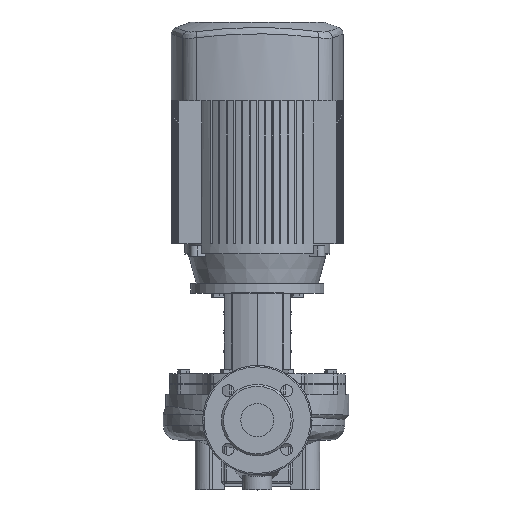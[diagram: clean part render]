
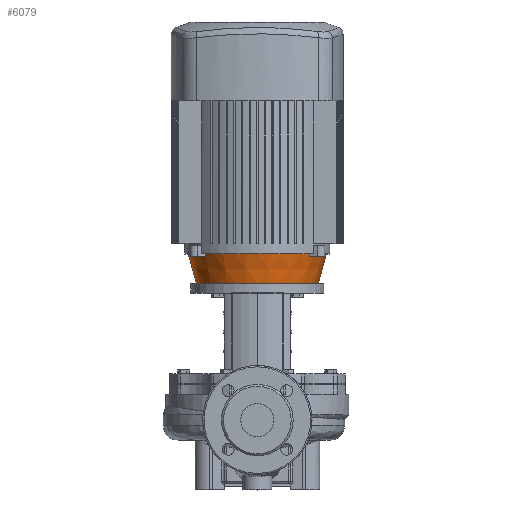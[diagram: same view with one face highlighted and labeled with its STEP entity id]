
A CAD part, top view. The second image highlights one B-rep face of the part: STEP entity #6079.
In plain terms, the highlighted conical face has half-angle 14.931 degrees and reference radius 92 mm.
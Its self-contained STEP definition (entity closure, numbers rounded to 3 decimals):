
#180 = ORIENTED_EDGE ( 'NONE', *, *, #18518, .F. ) ;
#412 = CARTESIAN_POINT ( 'NONE',  ( 78.687, 249.667, 67.458 ) ) ;
#416 = DIRECTION ( 'NONE',  ( 1., 0., 0. ) ) ;
#946 = EDGE_CURVE ( 'NONE', #32530, #39201, #31821, .T. ) ;
#1256 = ORIENTED_EDGE ( 'NONE', *, *, #43791, .T. ) ;
#1515 = DIRECTION ( 'NONE',  ( 0., 1., 0. ) ) ;
#1891 = DIRECTION ( 'NONE',  ( 0.258, -0.966, 0. ) ) ;
#1966 = CARTESIAN_POINT ( 'NONE',  ( -79.022, 251., 67.614 ) ) ;
#2456 = CARTESIAN_POINT ( 'NONE',  ( -90.302, 249.667, 50.87 ) ) ;
#2706 = EDGE_CURVE ( 'NONE', #11719, #45736, #46472, .T. ) ;
#2727 = VERTEX_POINT ( 'NONE', #31900 ) ;
#3132 = B_SPLINE_CURVE_WITH_KNOTS ( 'NONE', 3,
 ( #35768, #5589, #47178, #20433 ),
 .UNSPECIFIED., .F., .F.,
 ( 4, 4 ),
 ( 0., 1. ),
 .UNSPECIFIED. ) ;
#3211 = DIRECTION ( 'NONE',  ( -1., 0., 0. ) ) ;
#3304 = CARTESIAN_POINT ( 'NONE',  ( 92., 206., 0. ) ) ;
#3545 = DIRECTION ( 'NONE',  ( 0., -1., 0. ) ) ;
#3558 = ORIENTED_EDGE ( 'NONE', *, *, #44574, .F. ) ;
#5240 = VERTEX_POINT ( 'NONE', #45783 ) ;
#5589 = CARTESIAN_POINT ( 'NONE',  ( -78.687, 249.667, 67.458 ) ) ;
#6079 = ADVANCED_FACE ( 'NONE', ( #12926 ), #42943, .T. ) ;
#6101 = CARTESIAN_POINT ( 'NONE',  ( 0., 206., 0. ) ) ;
#6122 = B_SPLINE_CURVE_WITH_KNOTS ( 'NONE', 3,
 ( #31329, #23771, #26961, #31096 ),
 .UNSPECIFIED., .F., .F.,
 ( 4, 4 ),
 ( 0., 1. ),
 .UNSPECIFIED. ) ;
#6317 = DIRECTION ( 'NONE',  ( 1., 0., 0. ) ) ;
#6664 = B_SPLINE_CURVE_WITH_KNOTS ( 'NONE', 3,
 ( #33970, #412, #12064, #11830 ),
 .UNSPECIFIED., .F., .F.,
 ( 4, 4 ),
 ( 0., 1. ),
 .UNSPECIFIED. ) ;
#6908 = ORIENTED_EDGE ( 'NONE', *, *, #7120, .T. ) ;
#7029 = CARTESIAN_POINT ( 'NONE',  ( -90.563, 251., 51.131 ) ) ;
#7120 = EDGE_CURVE ( 'NONE', #45736, #32530, #19400, .T. ) ;
#7714 = AXIS2_PLACEMENT_3D ( 'NONE', #20222, #8569, #16334 ) ;
#7998 = CARTESIAN_POINT ( 'NONE',  ( -78.018, 247., 67.145 ) ) ;
#8569 = DIRECTION ( 'NONE',  ( 0., -1., 0. ) ) ;
#9274 = CARTESIAN_POINT ( 'NONE',  ( -89.78, 247., 50.348 ) ) ;
#9853 = VERTEX_POINT ( 'NONE', #23794 ) ;
#9903 = VERTEX_POINT ( 'NONE', #32787 ) ;
#10387 = AXIS2_PLACEMENT_3D ( 'NONE', #29422, #44276, #6317 ) ;
#10547 = CARTESIAN_POINT ( 'NONE',  ( -104., 251., 0. ) ) ;
#11095 = VERTEX_POINT ( 'NONE', #46017 ) ;
#11656 = ORIENTED_EDGE ( 'NONE', *, *, #37114, .T. ) ;
#11719 = VERTEX_POINT ( 'NONE', #20914 ) ;
#11742 = VECTOR ( 'NONE', #46417, 1000. ) ;
#11767 = EDGE_CURVE ( 'NONE', #9903, #9853, #31364, .T. ) ;
#11830 = CARTESIAN_POINT ( 'NONE',  ( 78.018, 247., 67.145 ) ) ;
#12040 = CARTESIAN_POINT ( 'NONE',  ( 0., 251., 0. ) ) ;
#12064 = CARTESIAN_POINT ( 'NONE',  ( 78.352, 248.333, 67.302 ) ) ;
#12468 = CIRCLE ( 'NONE', #25710, 104. ) ;
#12556 = CIRCLE ( 'NONE', #38201, 92. ) ;
#12926 = FACE_OUTER_BOUND ( 'NONE', #24882, .T. ) ;
#13173 = CARTESIAN_POINT ( 'NONE',  ( -90.041, 248.333, 50.609 ) ) ;
#14457 = EDGE_CURVE ( 'NONE', #11095, #5240, #28667, .T. ) ;
#14502 = VERTEX_POINT ( 'NONE', #1966 ) ;
#16334 = DIRECTION ( 'NONE',  ( -1., 0., 0. ) ) ;
#17453 = CARTESIAN_POINT ( 'NONE',  ( -92., 206., 0. ) ) ;
#18213 = VERTEX_POINT ( 'NONE', #7998 ) ;
#18518 = EDGE_CURVE ( 'NONE', #2727, #9853, #6664, .T. ) ;
#19277 = AXIS2_PLACEMENT_3D ( 'NONE', #33228, #3545, #30487 ) ;
#19400 = CIRCLE ( 'NONE', #19277, 104. ) ;
#19806 = DIRECTION ( 'NONE',  ( 0., -1., 0. ) ) ;
#19889 = AXIS2_PLACEMENT_3D ( 'NONE', #29349, #44204, #416 ) ;
#20222 = CARTESIAN_POINT ( 'NONE',  ( 0., 251., 0. ) ) ;
#20433 = CARTESIAN_POINT ( 'NONE',  ( -78.018, 247., 67.145 ) ) ;
#20914 = CARTESIAN_POINT ( 'NONE',  ( -89.78, 247., 50.348 ) ) ;
#21311 = ORIENTED_EDGE ( 'NONE', *, *, #2706, .T. ) ;
#21703 = CARTESIAN_POINT ( 'NONE',  ( 0., 206., 0. ) ) ;
#22959 = ORIENTED_EDGE ( 'NONE', *, *, #946, .T. ) ;
#23010 = ORIENTED_EDGE ( 'NONE', *, *, #23572, .F. ) ;
#23572 = EDGE_CURVE ( 'NONE', #32503, #39201, #12556, .T. ) ;
#23771 = CARTESIAN_POINT ( 'NONE',  ( 90.041, 248.333, 50.609 ) ) ;
#23794 = CARTESIAN_POINT ( 'NONE',  ( 78.018, 247., 67.145 ) ) ;
#24567 = CIRCLE ( 'NONE', #19889, 102.933 ) ;
#24726 = ORIENTED_EDGE ( 'NONE', *, *, #14457, .T. ) ;
#24882 = EDGE_LOOP ( 'NONE', ( #22959, #23010, #3558, #24726, #47724, #44037, #180, #1256, #11656, #29549, #21311, #6908 ) ) ;
#25710 = AXIS2_PLACEMENT_3D ( 'NONE', #12040, #19806, #34654 ) ;
#26961 = CARTESIAN_POINT ( 'NONE',  ( 90.302, 249.667, 50.87 ) ) ;
#28485 = EDGE_CURVE ( 'NONE', #9903, #5240, #6122, .T. ) ;
#28667 = CIRCLE ( 'NONE', #7714, 104. ) ;
#29349 = CARTESIAN_POINT ( 'NONE',  ( 0., 247., 0. ) ) ;
#29422 = CARTESIAN_POINT ( 'NONE',  ( 0., 247., 0. ) ) ;
#29483 = VECTOR ( 'NONE', #1891, 1000. ) ;
#29549 = ORIENTED_EDGE ( 'NONE', *, *, #35054, .T. ) ;
#29759 = AXIS2_PLACEMENT_3D ( 'NONE', #6101, #1515, #39198 ) ;
#30487 = DIRECTION ( 'NONE',  ( -1., 0., 0. ) ) ;
#31096 = CARTESIAN_POINT ( 'NONE',  ( 90.563, 251., 51.131 ) ) ;
#31329 = CARTESIAN_POINT ( 'NONE',  ( 89.78, 247., 50.348 ) ) ;
#31364 = CIRCLE ( 'NONE', #10387, 102.933 ) ;
#31821 = LINE ( 'NONE', #17453, #29483 ) ;
#31900 = CARTESIAN_POINT ( 'NONE',  ( 79.022, 251., 67.614 ) ) ;
#32503 = VERTEX_POINT ( 'NONE', #42443 ) ;
#32530 = VERTEX_POINT ( 'NONE', #10547 ) ;
#32787 = CARTESIAN_POINT ( 'NONE',  ( 89.78, 247., 50.348 ) ) ;
#33228 = CARTESIAN_POINT ( 'NONE',  ( 0., 251., 0. ) ) ;
#33970 = CARTESIAN_POINT ( 'NONE',  ( 79.022, 251., 67.614 ) ) ;
#34654 = DIRECTION ( 'NONE',  ( -1., 0., 0. ) ) ;
#35054 = EDGE_CURVE ( 'NONE', #18213, #11719, #24567, .T. ) ;
#35536 = CARTESIAN_POINT ( 'NONE',  ( -90.563, 251., 51.131 ) ) ;
#35768 = CARTESIAN_POINT ( 'NONE',  ( -79.022, 251., 67.614 ) ) ;
#36547 = DIRECTION ( 'NONE',  ( 0., -1., 0. ) ) ;
#37114 = EDGE_CURVE ( 'NONE', #14502, #18213, #3132, .T. ) ;
#38201 = AXIS2_PLACEMENT_3D ( 'NONE', #21703, #36547, #3211 ) ;
#39198 = DIRECTION ( 'NONE',  ( -1., 0., 0. ) ) ;
#39201 = VERTEX_POINT ( 'NONE', #47189 ) ;
#42443 = CARTESIAN_POINT ( 'NONE',  ( 92., 206., 0. ) ) ;
#42943 = CONICAL_SURFACE ( 'NONE', #29759, 92., 0.261 ) ;
#43791 = EDGE_CURVE ( 'NONE', #2727, #14502, #12468, .T. ) ;
#43942 = LINE ( 'NONE', #3304, #11742 ) ;
#44037 = ORIENTED_EDGE ( 'NONE', *, *, #11767, .T. ) ;
#44204 = DIRECTION ( 'NONE',  ( 0., -1., 0. ) ) ;
#44276 = DIRECTION ( 'NONE',  ( 0., -1., 0. ) ) ;
#44574 = EDGE_CURVE ( 'NONE', #11095, #32503, #43942, .T. ) ;
#45736 = VERTEX_POINT ( 'NONE', #7029 ) ;
#45783 = CARTESIAN_POINT ( 'NONE',  ( 90.563, 251., 51.131 ) ) ;
#46017 = CARTESIAN_POINT ( 'NONE',  ( 104., 251., 0. ) ) ;
#46417 = DIRECTION ( 'NONE',  ( -0.258, -0.966, 0. ) ) ;
#46472 = B_SPLINE_CURVE_WITH_KNOTS ( 'NONE', 3,
 ( #9274, #13173, #2456, #35536 ),
 .UNSPECIFIED., .F., .F.,
 ( 4, 4 ),
 ( 0., 1. ),
 .UNSPECIFIED. ) ;
#47178 = CARTESIAN_POINT ( 'NONE',  ( -78.352, 248.333, 67.302 ) ) ;
#47189 = CARTESIAN_POINT ( 'NONE',  ( -92., 206., 0. ) ) ;
#47724 = ORIENTED_EDGE ( 'NONE', *, *, #28485, .F. ) ;
